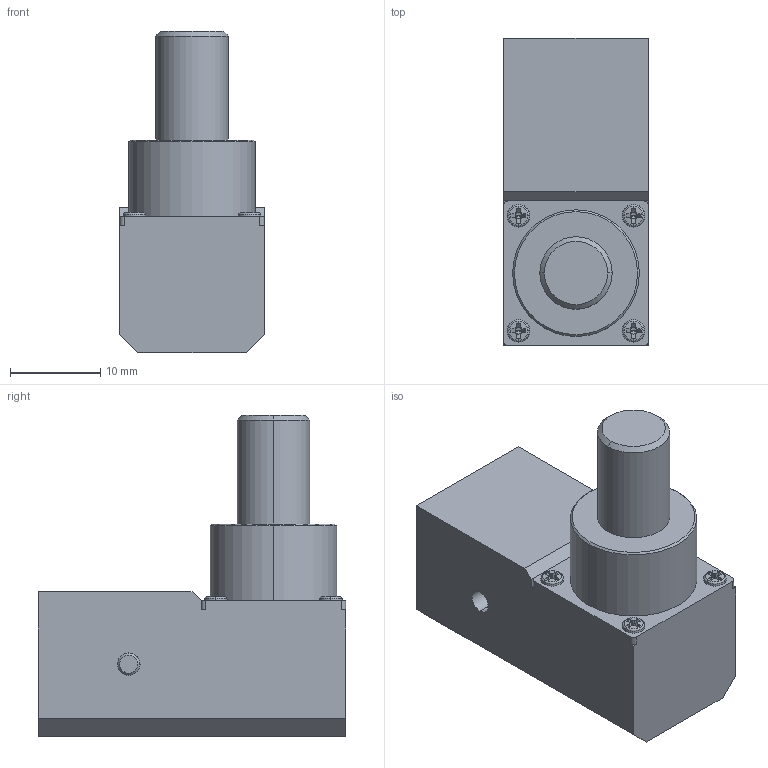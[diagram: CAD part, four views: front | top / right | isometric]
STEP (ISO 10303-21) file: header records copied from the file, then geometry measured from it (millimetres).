
FILE_DESCRIPTION (( 'STEP AP203' ), '1' );
FILE_NAME ('A03484A0000201A.STEP', '2020-08-19T09:20:15', ( '' ), ( '' ), 'SwSTEP 2.0', 'SolidWorks 2017', '' );
FILE_SCHEMA (( 'CONFIG_CONTROL_DESIGN' ));
Length unit declared in the file: millimetre
Products named in the file (1): A03484A0000201A
Bounding box: 16 x 34 x 35.5 mm (x, y, z)
Volume: 7490.1 mm3; surface area: 4807.5 mm2
Topology: 1 solids, 11 shells, 280 faces, 656 edges, 391 vertices
Faces by surface type: plane 123, cone 79, cylinder 54, torus 16, sphere 8
Entity records: 8433 total; most frequent: CARTESIAN_POINT 2105, DIRECTION 1366, ORIENTED_EDGE 1280, EDGE_CURVE 640, AXIS2_PLACEMENT_3D 588, VERTEX_POINT 391, CIRCLE 307, EDGE_LOOP 301
